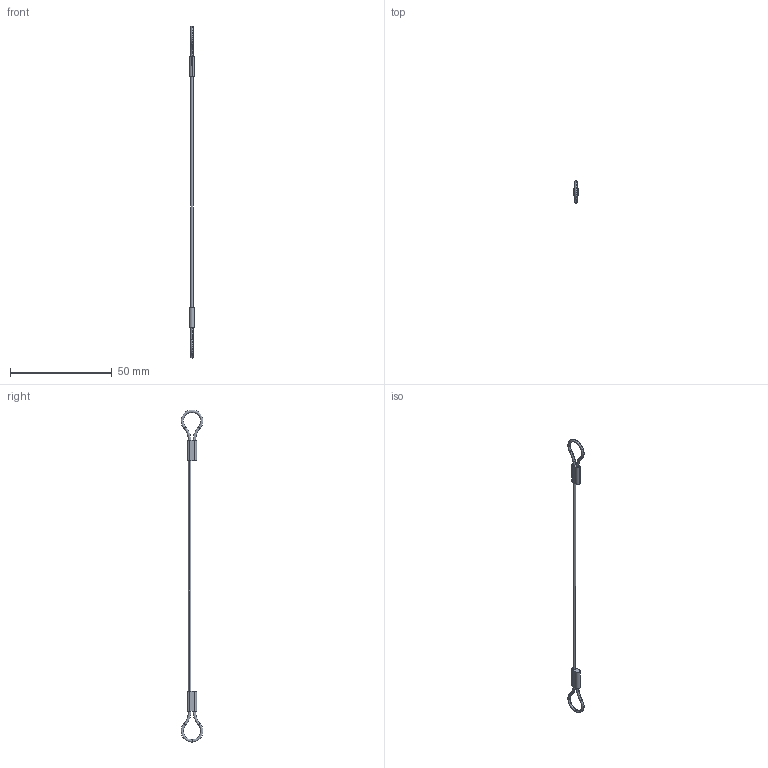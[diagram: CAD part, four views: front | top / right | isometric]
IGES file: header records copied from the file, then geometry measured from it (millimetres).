
Start section: SolidWorks IGES file using analytic representation for surfaces
Global section: file name: C:\Users\ianosborn\Desktop\LA1065_v2\LA1065_v2_20260320_IGES\LA1065.I04-152N1.igs; native system: SolidWorks 2019; preprocessor: SolidWorks 2019; author: IanOsborn; date: 260323.154042; units: millimetre
Bounding box: 2.4 x 10.78 x 163.17 mm (x, y, z)
Surface area: 968.1 mm2 (no closed solid volume)
Topology: 0 solids, 0 shells, 30 faces, 336 edges, 336 vertices
Faces by surface type: bspline 22, revolution 8
